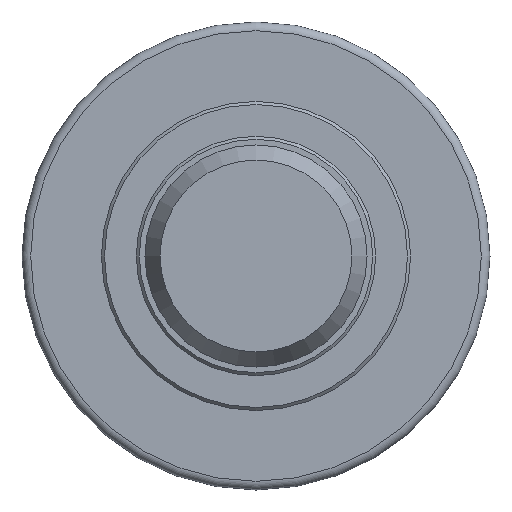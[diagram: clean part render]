
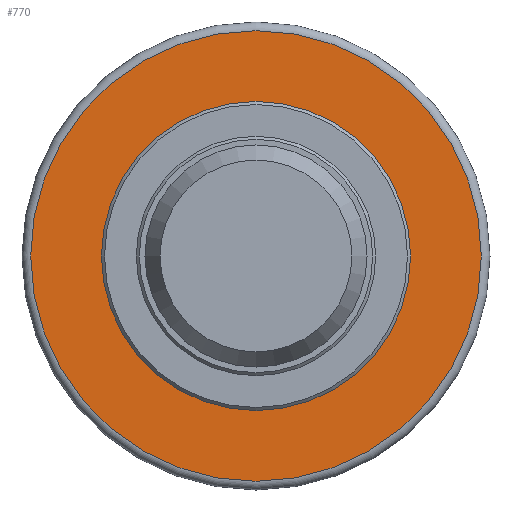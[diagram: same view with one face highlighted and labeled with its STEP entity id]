
A CAD part, left-side view. The second image highlights one B-rep face of the part: STEP entity #770.
In plain terms, the highlighted planar face has unit normal (-1, 0, 0).
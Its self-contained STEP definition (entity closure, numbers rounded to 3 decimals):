
#32=FACE_BOUND('',#146,.T.);
#55=PLANE('',#872);
#95=FACE_OUTER_BOUND('',#145,.T.);
#145=EDGE_LOOP('',(#656));
#146=EDGE_LOOP('',(#657));
#290=CIRCLE('',#868,51.75);
#293=CIRCLE('',#873,34.5);
#368=VERTEX_POINT('',#1374);
#371=VERTEX_POINT('',#1384);
#465=EDGE_CURVE('',#368,#368,#290,.T.);
#469=EDGE_CURVE('',#371,#371,#293,.T.);
#656=ORIENTED_EDGE('',*,*,#465,.F.);
#657=ORIENTED_EDGE('',*,*,#469,.T.);
#770=ADVANCED_FACE('',(#95,#32),#55,.T.);
#868=AXIS2_PLACEMENT_3D('',#1376,#1069,#1070);
#872=AXIS2_PLACEMENT_3D('',#1383,#1078,#1079);
#873=AXIS2_PLACEMENT_3D('',#1385,#1080,#1081);
#1069=DIRECTION('center_axis',(1.,0.,0.));
#1070=DIRECTION('ref_axis',(0.,-1.,0.));
#1078=DIRECTION('center_axis',(-1.,0.,0.));
#1079=DIRECTION('ref_axis',(0.,0.,1.));
#1080=DIRECTION('center_axis',(1.,0.,0.));
#1081=DIRECTION('ref_axis',(0.,1.,0.));
#1374=CARTESIAN_POINT('',(-21.,0.,51.75));
#1376=CARTESIAN_POINT('Origin',(-21.,0.,0.));
#1383=CARTESIAN_POINT('Origin',(-21.,44.125,0.));
#1384=CARTESIAN_POINT('',(-21.,-34.5,0.));
#1385=CARTESIAN_POINT('Origin',(-21.,0.,0.));
